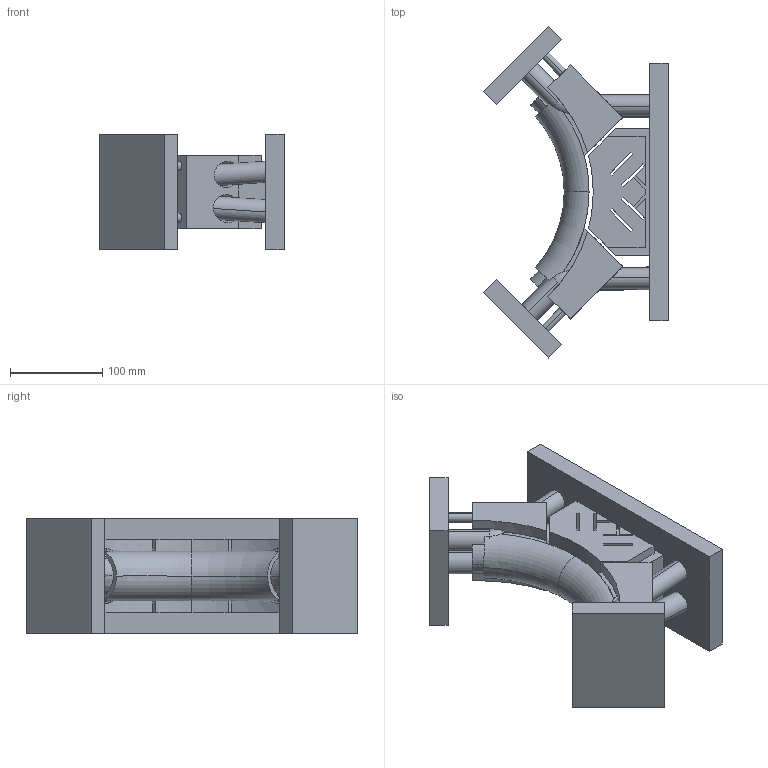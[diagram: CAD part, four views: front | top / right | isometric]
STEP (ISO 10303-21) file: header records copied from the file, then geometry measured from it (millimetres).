
FILE_DESCRIPTION(('STEP AP214'),'1');
FILE_NAME('C:/Users/mashimo/Documents/次世代エンジン/ボア６ｃｍ/TurboCAD/3D/tmp0.STEP','2025-07-11T09:12:28',(' '),(' '),'Spatial InterOp 3D',' ',' ');
FILE_SCHEMA(('automotive_design'));
Length unit declared in the file: millimetre
Products named in the file (1): 1
Bounding box: 200.31 x 360.62 x 126 mm (x, y, z)
Volume: 2661011.9 mm3; surface area: 349959.3 mm2
Topology: 1 solids, 1 shells, 171 faces, 527 edges, 351 vertices
Faces by surface type: plane 78, cylinder 61, torus 32
Entity records: 9271 total; most frequent: CARTESIAN_POINT 3098, ORIENTED_EDGE 1054, DIRECTION 971, EDGE_CURVE 527, AXIS2_PLACEMENT_3D 358, VERTEX_POINT 351, LINE 255, VECTOR 255
